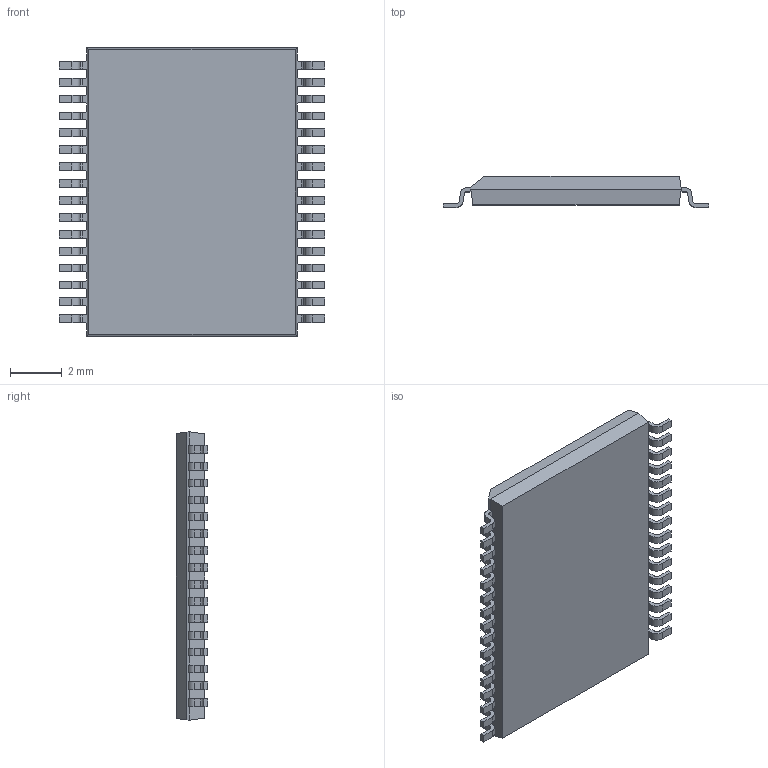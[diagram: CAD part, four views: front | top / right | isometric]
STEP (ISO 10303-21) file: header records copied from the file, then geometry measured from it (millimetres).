
FILE_DESCRIPTION (( 'STEP AP214' ), '1' );
FILE_NAME ('TSOP65P1000X120-32_MO-153.GB.STEP', '2014-10-29T08:18:48', ( 'Tester2' ), ( '' ), 'SwSTEP 2.0', 'SolidWorks 2012', '' );
FILE_SCHEMA (( 'AUTOMOTIVE_DESIGN' ));
Length unit declared in the file: millimetre
Products named in the file (1): TSOP65P1000X120-32_MO-153.GB
Bounding box: 10.2 x 1.2 x 11.1 mm (x, y, z)
Volume: 98.3 mm3; surface area: 256.1 mm2
Topology: 1 solids, 1 shells, 430 faces, 1277 edges, 850 vertices
Faces by surface type: plane 300, cylinder 130
Entity records: 18992 total; most frequent: CARTESIAN_POINT 2558, ORIENTED_EDGE 2554, DIRECTION 2399, EDGE_CURVE 1277, LINE 1017, VECTOR 1017, VERTEX_POINT 850, AXIS2_PLACEMENT_3D 691
